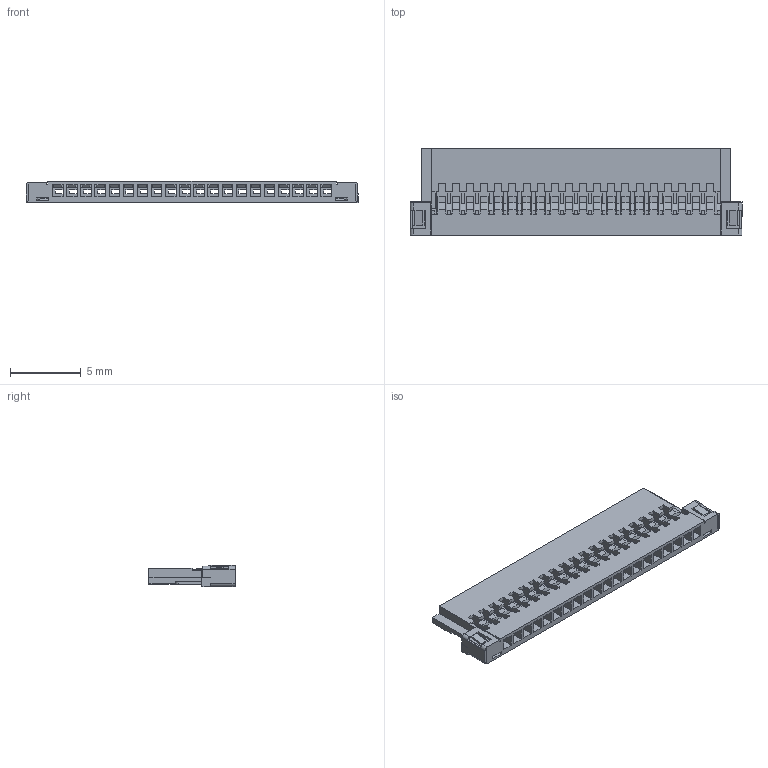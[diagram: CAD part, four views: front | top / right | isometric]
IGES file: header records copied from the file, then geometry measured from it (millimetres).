
Start section: Elysium IGES Interface
Global section: file name: T:\3DWEB公開\NCW\DF19\DF19G-S-1C\DF19G-20S-1C.igs, ; native system: SolidDesigner 15.00A  14-Mar-2007; preprocessor: OneSpace IGES_3D V2.2; author: Unknown; organization: Unknown; date: 20071026.214128; units: millimetre
Bounding box: 23.5 x 6.1 x 1.5 mm (x, y, z)
Volume: 99.6 mm3; surface area: 720.6 mm2
Topology: 1 solids, 1 shells, 755 faces, 2198 edges, 1391 vertices
Faces by surface type: bspline 755
